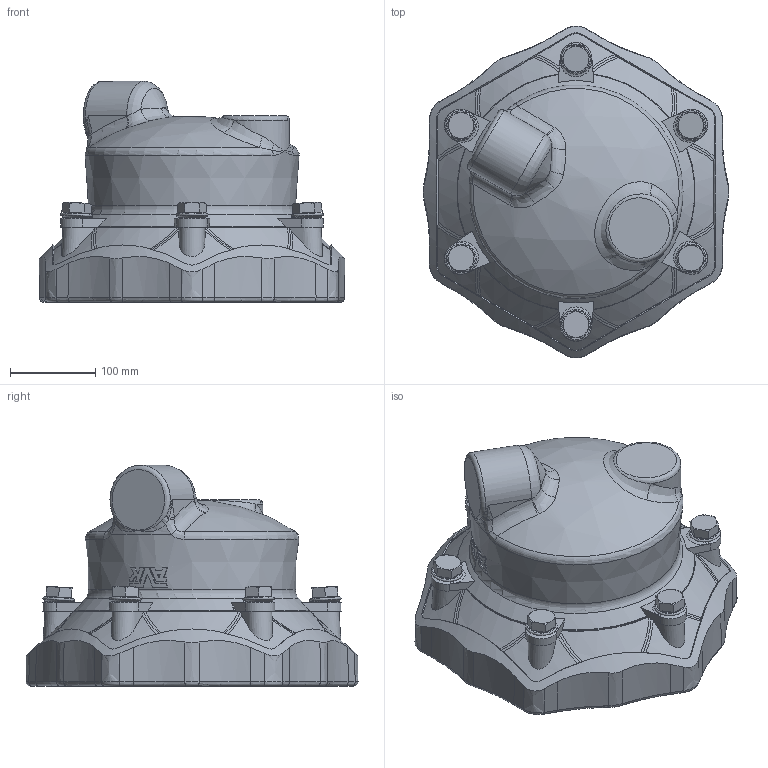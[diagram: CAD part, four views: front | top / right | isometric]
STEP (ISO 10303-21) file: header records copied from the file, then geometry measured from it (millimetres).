
FILE_DESCRIPTION (( 'STEP AP203' ), '1' );
FILE_NAME ('O_634_00_DN200_193-227mm_AA0_step.step', '2016-05-10T10:43:16', ( 'Windows User' ), ( 'AVK' ), 'SwSTEP 2.0', 'SolidWorks 2012', '' );
FILE_SCHEMA (( 'CONFIG_CONTROL_DESIGN' ));
Length unit declared in the file: millimetre
Products named in the file (1): O_634_00_DN200_193-227mm_AA0_step
Bounding box: 358.6 x 389.17 x 259.5 mm (x, y, z)
Volume: 7000027 mm3; surface area: 519913.1 mm2
Topology: 1 solids, 1 shells, 588 faces, 1517 edges, 945 vertices
Faces by surface type: plane 189, bspline 183, cylinder 117, cone 58, torus 33, sphere 8
Full cylindrical faces by diameter (mm): 30 x6, 227 x3, 230 x1
Entity records: 28949 total; most frequent: CARTESIAN_POINT 16479, ORIENTED_EDGE 2958, DIRECTION 2030, EDGE_CURVE 1479, VERTEX_POINT 938, AXIS2_PLACEMENT_3D 814, B_SPLINE_CURVE_WITH_KNOTS 638, EDGE_LOOP 631
